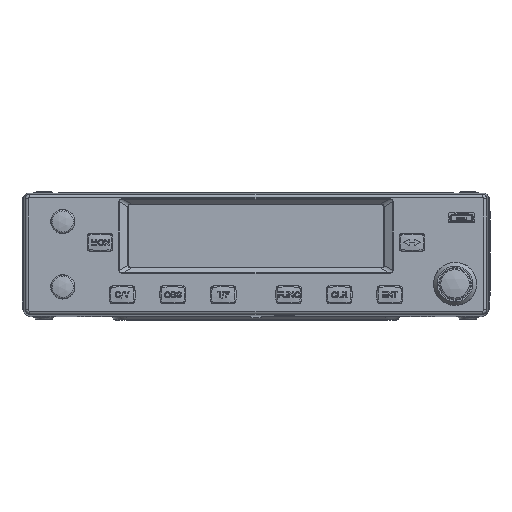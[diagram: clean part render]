
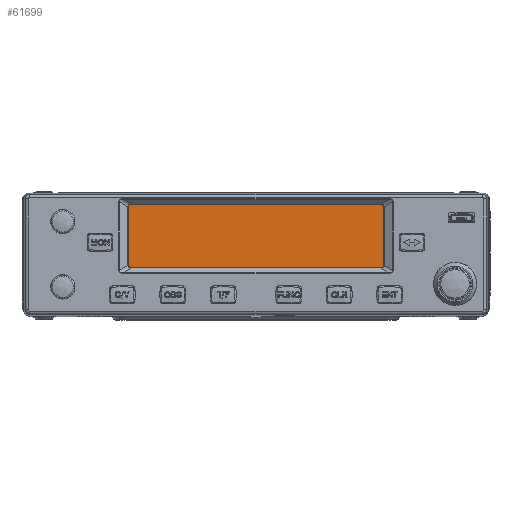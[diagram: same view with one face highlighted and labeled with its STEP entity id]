
A CAD part, top view. The second image highlights one B-rep face of the part: STEP entity #61699.
In plain terms, the highlighted planar face has unit normal (0, 0, 1).
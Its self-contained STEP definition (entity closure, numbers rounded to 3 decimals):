
#4754 = EDGE_CURVE ( 'NONE', #101019, #102517, #132861, .T. ) ;
#4761 = EDGE_CURVE ( 'NONE', #100872, #100989, #108286, .T. ) ;
#4772 = EDGE_CURVE ( 'NONE', #101962, #102517, #108303, .T. ) ;
#4774 = EDGE_CURVE ( 'NONE', #101019, #101349, #108306, .T. ) ;
#4787 = EDGE_CURVE ( 'NONE', #100706, #100519, #108317, .T. ) ;
#4790 = EDGE_CURVE ( 'NONE', #100872, #100519, #132845, .T. ) ;
#51774 = CARTESIAN_POINT ( 'NONE',  ( -43.72, -3.334, 17.78 ) ) ;
#51839 = CARTESIAN_POINT ( 'NONE',  ( -43.72, 16.288, 17.78 ) ) ;
#51898 = CARTESIAN_POINT ( 'NONE',  ( -42.704, -4.35, 17.78 ) ) ;
#51939 = CARTESIAN_POINT ( 'NONE',  ( 42.704, -4.35, 17.78 ) ) ;
#51950 = CARTESIAN_POINT ( 'NONE',  ( 42.704, 17.304, 17.78 ) ) ;
#52066 = CARTESIAN_POINT ( 'NONE',  ( -42.704, 17.304, 17.78 ) ) ;
#52577 = CARTESIAN_POINT ( 'NONE',  ( 43.72, -3.334, 17.78 ) ) ;
#53096 = CARTESIAN_POINT ( 'NONE',  ( 43.72, 16.288, 17.78 ) ) ;
#61699 = ADVANCED_FACE ( 'NONE', ( #118339 ), #124612, .F. ) ;
#81209 = ORIENTED_EDGE ( 'NONE', *, *, #4754, .F. ) ;
#81211 = ORIENTED_EDGE ( 'NONE', *, *, #4774, .T. ) ;
#81213 = ORIENTED_EDGE ( 'NONE', *, *, #151017, .F. ) ;
#81214 = ORIENTED_EDGE ( 'NONE', *, *, #4787, .T. ) ;
#81217 = ORIENTED_EDGE ( 'NONE', *, *, #4790, .F. ) ;
#81219 = ORIENTED_EDGE ( 'NONE', *, *, #4761, .T. ) ;
#81220 = ORIENTED_EDGE ( 'NONE', *, *, #152457, .F. ) ;
#81222 = ORIENTED_EDGE ( 'NONE', *, *, #4772, .T. ) ;
#84004 = EDGE_LOOP ( 'NONE', ( #81209, #81211, #81213, #81214, #81217, #81219, #81220, #81222 ) ) ;
#86731 =( BOUNDED_CURVE ( )  B_SPLINE_CURVE ( 3, ( #101195, #101220, #101241, #101244 ),
 .UNSPECIFIED., .F., .F. ) 
 B_SPLINE_CURVE_WITH_KNOTS ( ( 4, 4 ),
 ( 5.498, 7.068 ),
 .UNSPECIFIED. ) 
 CURVE ( )  GEOMETRIC_REPRESENTATION_ITEM ( )  RATIONAL_B_SPLINE_CURVE ( ( 1., 0.805, 0.805, 1. ) ) 
 REPRESENTATION_ITEM ( '' )  );
#100519 = VERTEX_POINT ( 'NONE', #51774 ) ;
#100706 = VERTEX_POINT ( 'NONE', #51839 ) ;
#100872 = VERTEX_POINT ( 'NONE', #51898 ) ;
#100989 = VERTEX_POINT ( 'NONE', #51939 ) ;
#101019 = VERTEX_POINT ( 'NONE', #51950 ) ;
#101195 = CARTESIAN_POINT ( 'NONE',  ( -43.72, 16.288, 17.78 ) ) ;
#101220 = CARTESIAN_POINT ( 'NONE',  ( -43.72, 16.883, 17.78 ) ) ;
#101241 = CARTESIAN_POINT ( 'NONE',  ( -43.299, 17.304, 17.78 ) ) ;
#101244 = CARTESIAN_POINT ( 'NONE',  ( -42.704, 17.304, 17.78 ) ) ;
#101349 = VERTEX_POINT ( 'NONE', #52066 ) ;
#101962 = VERTEX_POINT ( 'NONE', #52577 ) ;
#102517 = VERTEX_POINT ( 'NONE', #53096 ) ;
#108286 = LINE ( 'NONE', #137603, #108287 ) ;
#108287 = VECTOR ( 'NONE', #137659, 1000. ) ;
#108303 = LINE ( 'NONE', #137687, #108309 ) ;
#108306 = LINE ( 'NONE', #137692, #108313 ) ;
#108309 = VECTOR ( 'NONE', #137690, 1000. ) ;
#108313 = VECTOR ( 'NONE', #137695, 1000. ) ;
#108317 = LINE ( 'NONE', #137737, #108325 ) ;
#108325 = VECTOR ( 'NONE', #137758, 1000. ) ;
#113001 = AXIS2_PLACEMENT_3D ( 'NONE', #124604, #124614, #124615 ) ;
#118339 = FACE_OUTER_BOUND ( 'NONE', #84004, .T. ) ;
#124604 = CARTESIAN_POINT ( 'NONE',  ( 77.343, -18.669, 17.78 ) ) ;
#124612 = PLANE ( 'NONE',  #113001 ) ;
#124614 = DIRECTION ( 'NONE',  ( 0., 0., -1. ) ) ;
#124615 = DIRECTION ( 'NONE',  ( -1., 0., 0. ) ) ;
#127682 =( BOUNDED_CURVE ( )  B_SPLINE_CURVE ( 3, ( #130858, #130857, #130866, #130867 ),
 .UNSPECIFIED., .F., .T. ) 
 B_SPLINE_CURVE_WITH_KNOTS ( ( 4, 4 ),
 ( 5.498, 7.068 ),
 .UNSPECIFIED. ) 
 CURVE ( )  GEOMETRIC_REPRESENTATION_ITEM ( )  RATIONAL_B_SPLINE_CURVE ( ( 1., 0.805, 0.805, 1. ) ) 
 REPRESENTATION_ITEM ( '' )  );
#130857 = CARTESIAN_POINT ( 'NONE',  ( 43.72, -3.929, 17.78 ) ) ;
#130858 = CARTESIAN_POINT ( 'NONE',  ( 43.72, -3.334, 17.78 ) ) ;
#130866 = CARTESIAN_POINT ( 'NONE',  ( 43.299, -4.35, 17.78 ) ) ;
#130867 = CARTESIAN_POINT ( 'NONE',  ( 42.704, -4.35, 17.78 ) ) ;
#132845 =( BOUNDED_CURVE ( )  B_SPLINE_CURVE ( 3, ( #137764, #137756, #137751, #137768 ),
 .UNSPECIFIED., .F., .F. ) 
 B_SPLINE_CURVE_WITH_KNOTS ( ( 4, 4 ),
 ( 5.498, 7.068 ),
 .UNSPECIFIED. ) 
 CURVE ( )  GEOMETRIC_REPRESENTATION_ITEM ( )  RATIONAL_B_SPLINE_CURVE ( ( 1., 0.805, 0.805, 1. ) ) 
 REPRESENTATION_ITEM ( '' )  );
#132861 =( BOUNDED_CURVE ( )  B_SPLINE_CURVE ( 3, ( #137623, #137632, #137630, #137625 ),
 .UNSPECIFIED., .F., .F. ) 
 B_SPLINE_CURVE_WITH_KNOTS ( ( 4, 4 ),
 ( 5.498, 7.068 ),
 .UNSPECIFIED. ) 
 CURVE ( )  GEOMETRIC_REPRESENTATION_ITEM ( )  RATIONAL_B_SPLINE_CURVE ( ( 1., 0.805, 0.805, 1. ) ) 
 REPRESENTATION_ITEM ( '' )  );
#137603 = CARTESIAN_POINT ( 'NONE',  ( 77.343, -4.35, 17.78 ) ) ;
#137623 = CARTESIAN_POINT ( 'NONE',  ( 42.704, 17.304, 17.78 ) ) ;
#137625 = CARTESIAN_POINT ( 'NONE',  ( 43.72, 16.288, 17.78 ) ) ;
#137630 = CARTESIAN_POINT ( 'NONE',  ( 43.72, 16.883, 17.78 ) ) ;
#137632 = CARTESIAN_POINT ( 'NONE',  ( 43.299, 17.304, 17.78 ) ) ;
#137659 = DIRECTION ( 'NONE',  ( 1., 0., 0. ) ) ;
#137687 = CARTESIAN_POINT ( 'NONE',  ( 43.72, -18.669, 17.78 ) ) ;
#137690 = DIRECTION ( 'NONE',  ( 0., 1., 0. ) ) ;
#137692 = CARTESIAN_POINT ( 'NONE',  ( 77.343, 17.304, 17.78 ) ) ;
#137695 = DIRECTION ( 'NONE',  ( -1., 0., 0. ) ) ;
#137737 = CARTESIAN_POINT ( 'NONE',  ( -43.72, -18.669, 17.78 ) ) ;
#137751 = CARTESIAN_POINT ( 'NONE',  ( -43.72, -3.929, 17.78 ) ) ;
#137756 = CARTESIAN_POINT ( 'NONE',  ( -43.299, -4.35, 17.78 ) ) ;
#137758 = DIRECTION ( 'NONE',  ( 0., -1., 0. ) ) ;
#137764 = CARTESIAN_POINT ( 'NONE',  ( -42.704, -4.35, 17.78 ) ) ;
#137768 = CARTESIAN_POINT ( 'NONE',  ( -43.72, -3.334, 17.78 ) ) ;
#151017 = EDGE_CURVE ( 'NONE', #100706, #101349, #86731, .T. ) ;
#152457 = EDGE_CURVE ( 'NONE', #101962, #100989, #127682, .T. ) ;
